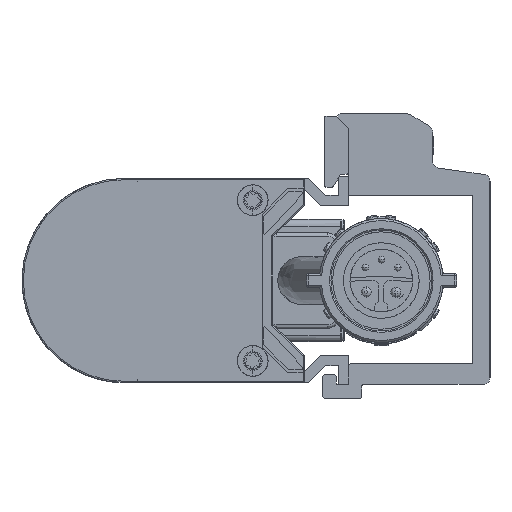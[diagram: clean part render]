
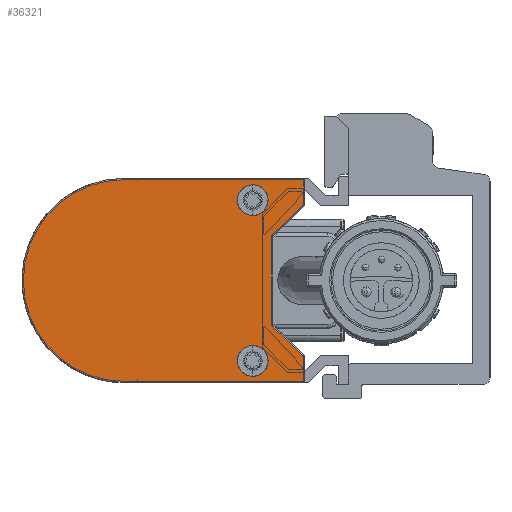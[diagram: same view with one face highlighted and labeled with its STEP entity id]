
A CAD part, left-side view. The second image highlights one B-rep face of the part: STEP entity #36321.
In plain terms, the highlighted planar face has unit normal (-1, 0, 0).
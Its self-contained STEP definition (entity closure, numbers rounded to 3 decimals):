
#543 = ORIENTED_EDGE ( 'NONE', *, *, #12583, .F. ) ;
#1022 = ORIENTED_EDGE ( 'NONE', *, *, #3946, .F. ) ;
#1172 = CIRCLE ( 'NONE', #60864, 2.25 ) ;
#1813 = EDGE_CURVE ( 'NONE', #8448, #30964, #17257, .T. ) ;
#2931 = CARTESIAN_POINT ( 'NONE',  ( -300., 14.134, 14.05 ) ) ;
#2962 = CARTESIAN_POINT ( 'NONE',  ( -300., 6.7, -14.8 ) ) ;
#3794 = DIRECTION ( 'NONE',  ( 0., 0., 1. ) ) ;
#3946 = EDGE_CURVE ( 'NONE', #27837, #16548, #13774, .T. ) ;
#4127 = LINE ( 'NONE', #15227, #22729 ) ;
#4425 = VERTEX_POINT ( 'NONE', #36958 ) ;
#4762 = DIRECTION ( 'NONE',  ( 0., 1., 0. ) ) ;
#5171 = CARTESIAN_POINT ( 'NONE',  ( -300., 14.134, -11.8 ) ) ;
#5320 = FACE_OUTER_BOUND ( 'NONE', #6731, .T. ) ;
#5829 = DIRECTION ( 'NONE',  ( 0., 0.696, 0.718 ) ) ;
#6165 = DIRECTION ( 'NONE',  ( -1., 0., 0. ) ) ;
#6731 = EDGE_LOOP ( 'NONE', ( #44772, #59791, #39670, #543, #62822, #53510, #1022, #30188, #15339, #24424 ) ) ;
#7376 = AXIS2_PLACEMENT_3D ( 'NONE', #23419, #37937, #58929 ) ;
#7873 = AXIS2_PLACEMENT_3D ( 'NONE', #39993, #30094, #55409 ) ;
#8109 = EDGE_CURVE ( 'NONE', #12627, #41074, #43180, .T. ) ;
#8448 = VERTEX_POINT ( 'NONE', #48648 ) ;
#10238 = DIRECTION ( 'NONE',  ( 0., 0., 1. ) ) ;
#10307 = CIRCLE ( 'NONE', #57432, 14.8 ) ;
#10662 = EDGE_CURVE ( 'NONE', #4425, #41074, #36159, .T. ) ;
#12159 = LINE ( 'NONE', #2962, #63522 ) ;
#12245 = DIRECTION ( 'NONE',  ( 0., 0., -1. ) ) ;
#12359 = ORIENTED_EDGE ( 'NONE', *, *, #50987, .F. ) ;
#12392 = CARTESIAN_POINT ( 'NONE',  ( -300., 33., -14.8 ) ) ;
#12583 = EDGE_CURVE ( 'NONE', #8448, #46726, #10307, .T. ) ;
#12627 = VERTEX_POINT ( 'NONE', #52903 ) ;
#13774 = LINE ( 'NONE', #33804, #37104 ) ;
#14195 = DIRECTION ( 'NONE',  ( 0., 0., 1. ) ) ;
#14833 = FACE_BOUND ( 'NONE', #38381, .T. ) ;
#15100 = CARTESIAN_POINT ( 'NONE',  ( -300., 6.7, -14.8 ) ) ;
#15154 = CARTESIAN_POINT ( 'NONE',  ( -300., 27.25, 0. ) ) ;
#15212 = ORIENTED_EDGE ( 'NONE', *, *, #15725, .F. ) ;
#15227 = CARTESIAN_POINT ( 'NONE',  ( -300., 6.7, 14.8 ) ) ;
#15339 = ORIENTED_EDGE ( 'NONE', *, *, #8109, .T. ) ;
#15687 = DIRECTION ( 'NONE',  ( 0., 0., -1. ) ) ;
#15725 = EDGE_CURVE ( 'NONE', #43905, #28298, #1172, .T. ) ;
#15752 = VECTOR ( 'NONE', #32361, 1000. ) ;
#16548 = VERTEX_POINT ( 'NONE', #48587 ) ;
#16716 = CARTESIAN_POINT ( 'NONE',  ( -300., 6.7, 11.135 ) ) ;
#17080 = CARTESIAN_POINT ( 'NONE',  ( -300., 14.134, -11.8 ) ) ;
#17257 = LINE ( 'NONE', #12392, #15752 ) ;
#17859 = CARTESIAN_POINT ( 'NONE',  ( -300., 11.399, 6.415 ) ) ;
#18646 = VECTOR ( 'NONE', #3794, 1000. ) ;
#20040 = EDGE_CURVE ( 'NONE', #60501, #22260, #40078, .T. ) ;
#22172 = CIRCLE ( 'NONE', #44372, 2.25 ) ;
#22256 = DIRECTION ( 'NONE',  ( 0., 0., 1. ) ) ;
#22260 = VERTEX_POINT ( 'NONE', #36045 ) ;
#22729 = VECTOR ( 'NONE', #4762, 1000. ) ;
#23419 = CARTESIAN_POINT ( 'NONE',  ( -300., 14.134, 11.8 ) ) ;
#23565 = VECTOR ( 'NONE', #10238, 1000. ) ;
#23706 = EDGE_CURVE ( 'NONE', #28298, #43905, #40886, .T. ) ;
#24424 = ORIENTED_EDGE ( 'NONE', *, *, #10662, .F. ) ;
#24554 = AXIS2_PLACEMENT_3D ( 'NONE', #32035, #6165, #5829 ) ;
#27572 = CARTESIAN_POINT ( 'NONE',  ( -300., 33., 0. ) ) ;
#27837 = VERTEX_POINT ( 'NONE', #29575 ) ;
#27969 = VERTEX_POINT ( 'NONE', #53520 ) ;
#28298 = VERTEX_POINT ( 'NONE', #2931 ) ;
#28409 = CARTESIAN_POINT ( 'NONE',  ( -300., 14.134, 9.55 ) ) ;
#28718 = CARTESIAN_POINT ( 'NONE',  ( -300., 6.7, 11.135 ) ) ;
#29575 = CARTESIAN_POINT ( 'NONE',  ( -300., 11.278, -6.703 ) ) ;
#29686 = VERTEX_POINT ( 'NONE', #62387 ) ;
#29805 = DIRECTION ( 'NONE',  ( -1., 0., 0. ) ) ;
#30094 = DIRECTION ( 'NONE',  ( -1., 0., 0. ) ) ;
#30188 = ORIENTED_EDGE ( 'NONE', *, *, #60986, .F. ) ;
#30225 = EDGE_LOOP ( 'NONE', ( #44390, #15212 ) ) ;
#30384 = DIRECTION ( 'NONE',  ( -1., 0., 0. ) ) ;
#30964 = VERTEX_POINT ( 'NONE', #15100 ) ;
#31528 = DIRECTION ( 'NONE',  ( 0., 0., -1. ) ) ;
#32035 = CARTESIAN_POINT ( 'NONE',  ( -300., 10.999, 6.415 ) ) ;
#32361 = DIRECTION ( 'NONE',  ( 0., -1., 0. ) ) ;
#33804 = CARTESIAN_POINT ( 'NONE',  ( -300., 11.278, -6.703 ) ) ;
#34225 = DIRECTION ( 'NONE',  ( -1., 0., 0. ) ) ;
#36045 = CARTESIAN_POINT ( 'NONE',  ( -300., 6.7, 14.8 ) ) ;
#36159 = CIRCLE ( 'NONE', #24554, 0.4 ) ;
#36321 = ADVANCED_FACE ( 'NONE', ( #60132, #14833, #5320 ), #54242, .T. ) ;
#36587 = EDGE_CURVE ( 'NONE', #27969, #29686, #38562, .T. ) ;
#36958 = CARTESIAN_POINT ( 'NONE',  ( -300., 11.278, 6.703 ) ) ;
#37104 = VECTOR ( 'NONE', #53174, 1000. ) ;
#37937 = DIRECTION ( 'NONE',  ( -1., 0., 0. ) ) ;
#38381 = EDGE_LOOP ( 'NONE', ( #12359, #50958 ) ) ;
#38562 = CIRCLE ( 'NONE', #56342, 2.25 ) ;
#39670 = ORIENTED_EDGE ( 'NONE', *, *, #41222, .T. ) ;
#39993 = CARTESIAN_POINT ( 'NONE',  ( -300., 10.999, -6.415 ) ) ;
#40078 = LINE ( 'NONE', #44657, #23565 ) ;
#40886 = CIRCLE ( 'NONE', #7376, 2.25 ) ;
#41074 = VERTEX_POINT ( 'NONE', #17859 ) ;
#41222 = EDGE_CURVE ( 'NONE', #22260, #46726, #4127, .T. ) ;
#42583 = EDGE_CURVE ( 'NONE', #60501, #4425, #47230, .T. ) ;
#43180 = LINE ( 'NONE', #63157, #18646 ) ;
#43905 = VERTEX_POINT ( 'NONE', #28409 ) ;
#44372 = AXIS2_PLACEMENT_3D ( 'NONE', #5171, #30384, #50109 ) ;
#44390 = ORIENTED_EDGE ( 'NONE', *, *, #23706, .F. ) ;
#44657 = CARTESIAN_POINT ( 'NONE',  ( -300., 6.7, 11.135 ) ) ;
#44772 = ORIENTED_EDGE ( 'NONE', *, *, #42583, .F. ) ;
#45990 = DIRECTION ( 'NONE',  ( -1., 0., 0. ) ) ;
#46726 = VERTEX_POINT ( 'NONE', #48850 ) ;
#47230 = LINE ( 'NONE', #16716, #63878 ) ;
#48587 = CARTESIAN_POINT ( 'NONE',  ( -300., 6.7, -11.135 ) ) ;
#48648 = CARTESIAN_POINT ( 'NONE',  ( -300., 33., -14.8 ) ) ;
#48675 = CIRCLE ( 'NONE', #7873, 0.4 ) ;
#48850 = CARTESIAN_POINT ( 'NONE',  ( -300., 33., 14.8 ) ) ;
#50109 = DIRECTION ( 'NONE',  ( 0., 0., 1. ) ) ;
#50958 = ORIENTED_EDGE ( 'NONE', *, *, #36587, .F. ) ;
#50987 = EDGE_CURVE ( 'NONE', #29686, #27969, #22172, .T. ) ;
#52855 = CARTESIAN_POINT ( 'NONE',  ( -300., 14.134, 11.8 ) ) ;
#52903 = CARTESIAN_POINT ( 'NONE',  ( -300., 11.399, -6.415 ) ) ;
#53174 = DIRECTION ( 'NONE',  ( 0., -0.718, -0.696 ) ) ;
#53233 = DIRECTION ( 'NONE',  ( 1., 0., 0. ) ) ;
#53510 = ORIENTED_EDGE ( 'NONE', *, *, #53979, .T. ) ;
#53520 = CARTESIAN_POINT ( 'NONE',  ( -300., 14.134, -14.05 ) ) ;
#53979 = EDGE_CURVE ( 'NONE', #30964, #16548, #12159, .T. ) ;
#54242 = PLANE ( 'NONE',  #57300 ) ;
#55409 = DIRECTION ( 'NONE',  ( 0., 1., 0. ) ) ;
#56342 = AXIS2_PLACEMENT_3D ( 'NONE', #17080, #45990, #31528 ) ;
#57300 = AXIS2_PLACEMENT_3D ( 'NONE', #15154, #34225, #14195 ) ;
#57432 = AXIS2_PLACEMENT_3D ( 'NONE', #27572, #53233, #12245 ) ;
#58929 = DIRECTION ( 'NONE',  ( 0., 0., 1. ) ) ;
#59791 = ORIENTED_EDGE ( 'NONE', *, *, #20040, .T. ) ;
#60132 = FACE_BOUND ( 'NONE', #30225, .T. ) ;
#60501 = VERTEX_POINT ( 'NONE', #28718 ) ;
#60864 = AXIS2_PLACEMENT_3D ( 'NONE', #52855, #29805, #15687 ) ;
#60986 = EDGE_CURVE ( 'NONE', #12627, #27837, #48675, .T. ) ;
#62018 = DIRECTION ( 'NONE',  ( 0., 0.718, -0.696 ) ) ;
#62387 = CARTESIAN_POINT ( 'NONE',  ( -300., 14.134, -9.55 ) ) ;
#62822 = ORIENTED_EDGE ( 'NONE', *, *, #1813, .T. ) ;
#63157 = CARTESIAN_POINT ( 'NONE',  ( -300., 11.399, -6.415 ) ) ;
#63522 = VECTOR ( 'NONE', #22256, 1000. ) ;
#63878 = VECTOR ( 'NONE', #62018, 1000. ) ;
